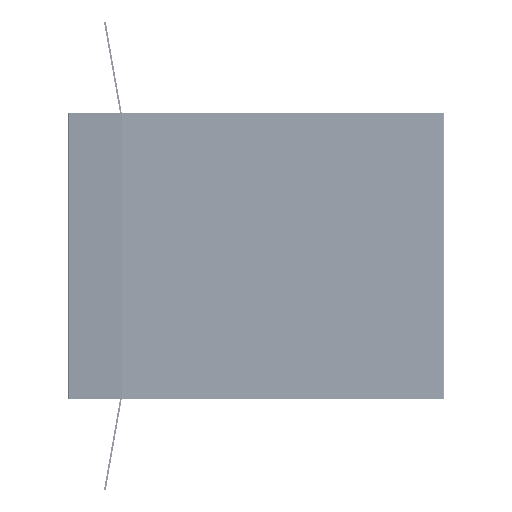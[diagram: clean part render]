
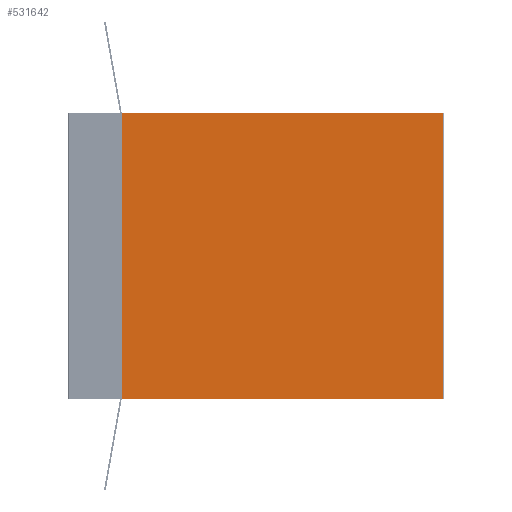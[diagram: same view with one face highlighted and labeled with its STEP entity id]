
A CAD part, left-side view. The second image highlights one B-rep face of the part: STEP entity #531642.
In plain terms, the highlighted planar face has unit normal (-1, 0, 0) as drawn and (0, 0, 1) by its records, which use the part's own axes.
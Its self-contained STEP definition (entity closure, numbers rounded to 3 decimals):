
#530806=DIRECTION('',(1.,0.,0.));
#530807=VECTOR('',#530806,5.);
#530808=CARTESIAN_POINT('',(577.,-654.5,374.5));
#530809=LINE('',#530808,#530807);
#530814=DIRECTION('',(1.,0.,0.));
#530815=VECTOR('',#530814,5.);
#530816=CARTESIAN_POINT('',(-582.,-654.5,374.5));
#530817=LINE('',#530816,#530815);
#530834=CARTESIAN_POINT('',(577.,-649.5,374.5));
#530835=DIRECTION('',(0.,0.,1.));
#530836=DIRECTION('',(0.,-1.,0.));
#530837=AXIS2_PLACEMENT_3D('',#530834,#530835,#530836);
#530852=DIRECTION('',(1.,0.,0.));
#530853=VECTOR('',#530852,1164.);
#530854=CARTESIAN_POINT('',(-582.,647.5,374.5));
#530855=LINE('',#530854,#530853);
#530856=DIRECTION('',(0.,-1.,0.));
#530857=VECTOR('',#530856,2.);
#530858=CARTESIAN_POINT('',(-582.,-654.5,374.5));
#530859=LINE('',#530858,#530857);
#530876=DIRECTION('',(0.,-1.,0.));
#530877=VECTOR('',#530876,1297.);
#530878=CARTESIAN_POINT('',(-582.,647.5,374.5));
#530879=LINE('',#530878,#530877);
#530957=CARTESIAN_POINT('',(-577.,-649.5,374.5));
#530958=DIRECTION('',(0.,0.,1.));
#530959=DIRECTION('',(-1.,0.,0.));
#530960=AXIS2_PLACEMENT_3D('',#530957,#530958,#530959);
#531003=DIRECTION('',(-1.,0.,0.));
#531004=VECTOR('',#531003,1164.);
#531005=CARTESIAN_POINT('',(582.,-656.5,374.5));
#531006=LINE('',#531005,#531004);
#531024=DIRECTION('',(0.,-1.,0.));
#531025=VECTOR('',#531024,2.);
#531026=CARTESIAN_POINT('',(582.,-654.5,374.5));
#531027=LINE('',#531026,#531025);
#531126=DIRECTION('',(0.,1.,0.));
#531127=VECTOR('',#531126,1297.);
#531128=CARTESIAN_POINT('',(582.,-649.5,374.5));
#531129=LINE('',#531128,#531127);
#531267=CARTESIAN_POINT('',(582.,-649.5,374.5));
#531269=VERTEX_POINT('',#531267);
#531270=CARTESIAN_POINT('',(-582.,-649.5,374.5));
#531272=VERTEX_POINT('',#531270);
#531306=CARTESIAN_POINT('',(582.,-654.5,374.5));
#531308=VERTEX_POINT('',#531306);
#531311=CARTESIAN_POINT('',(-582.,-654.5,374.5));
#531313=VERTEX_POINT('',#531311);
#531326=CARTESIAN_POINT('',(577.,-654.5,374.5));
#531327=VERTEX_POINT('',#531326);
#531328=CARTESIAN_POINT('',(-577.,-654.5,374.5));
#531329=VERTEX_POINT('',#531328);
#531350=CARTESIAN_POINT('',(-582.,-656.5,374.5));
#531351=VERTEX_POINT('',#531350);
#531352=CARTESIAN_POINT('',(582.,-656.5,374.5));
#531353=VERTEX_POINT('',#531352);
#531410=CARTESIAN_POINT('',(-582.,647.5,374.5));
#531411=CARTESIAN_POINT('',(582.,647.5,374.5));
#531412=VERTEX_POINT('',#531410);
#531413=VERTEX_POINT('',#531411);
#531618=CARTESIAN_POINT('',(-582.,-647.5,374.5));
#531619=DIRECTION('',(0.,0.,1.));
#531620=DIRECTION('',(1.,0.,0.));
#531621=AXIS2_PLACEMENT_3D('',#531618,#531619,#531620);
#531622=PLANE('',#531621);
#531624=ORIENTED_EDGE('',*,*,#531623,.T.);
#531626=ORIENTED_EDGE('',*,*,#531625,.F.);
#531627=ORIENTED_EDGE('',*,*,#531605,.F.);
#531628=ORIENTED_EDGE('',*,*,#531564,.T.);
#531630=ORIENTED_EDGE('',*,*,#531629,.T.);
#531632=ORIENTED_EDGE('',*,*,#531631,.T.);
#531634=ORIENTED_EDGE('',*,*,#531633,.F.);
#531635=ORIENTED_EDGE('',*,*,#531576,.T.);
#531637=ORIENTED_EDGE('',*,*,#531636,.F.);
#531639=ORIENTED_EDGE('',*,*,#531638,.F.);
#531640=EDGE_LOOP('',(#531624,#531626,#531627,#531628,#531630,#531632,#531634,
#531635,#531637,#531639));
#531641=FACE_OUTER_BOUND('',#531640,.F.);
#531642=ADVANCED_FACE('',(#531641),#531622,.T.);
#530838=CIRCLE('',#530837,5.);
#530961=CIRCLE('',#530960,5.);
#531564=EDGE_CURVE('',#531327,#531308,#530809,.T.);
#531576=EDGE_CURVE('',#531313,#531329,#530817,.T.);
#531605=EDGE_CURVE('',#531327,#531269,#530838,.T.);
#531623=EDGE_CURVE('',#531412,#531413,#530855,.T.);
#531625=EDGE_CURVE('',#531269,#531413,#531129,.T.);
#531629=EDGE_CURVE('',#531308,#531353,#531027,.T.);
#531631=EDGE_CURVE('',#531353,#531351,#531006,.T.);
#531633=EDGE_CURVE('',#531313,#531351,#530859,.T.);
#531636=EDGE_CURVE('',#531272,#531329,#530961,.T.);
#531638=EDGE_CURVE('',#531412,#531272,#530879,.T.);
